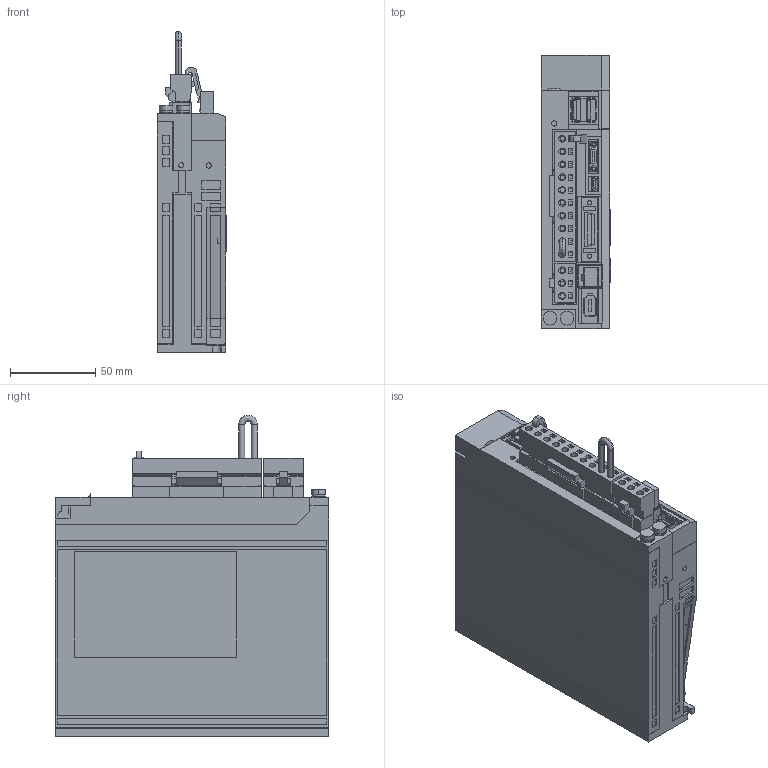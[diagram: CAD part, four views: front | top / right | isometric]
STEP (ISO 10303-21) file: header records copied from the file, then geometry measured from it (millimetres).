
FILE_DESCRIPTION (( 'STEP AP203' ), '1' );
FILE_NAME ('sgdv_1r6a1_a.STEP', '2008-06-17T08:20:23', ( 'T' ), ( 'T' ), 'SwSTEP 2.0', 'SolidWorks 2006052', '' );
FILE_SCHEMA (( 'CONFIG_CONTROL_DESIGN' ));
Length unit declared in the file: millimetre
Products named in the file (10): sgdv_1r6a1_a_pin; sgdv_1r6a1_a_cable; sgdv_1r6a1_a; sgdv_1r6a1_a_base; sgdv_1r6a1_a_connector; sgdv_1r6a1_a_connector_2; sgdv_1r6a1_a_connector_1; sgdv_1r6a1_a_cover; sgdv_1r6a1_a_cover2; sgdv_1r6a1_a_connector_3
Assembly tree (10 placements, depth 3):
  sgdv_1r6a1_a
    sgdv_1r6a1_a_base
    sgdv_1r6a1_a_connector
      sgdv_1r6a1_a_connector_2
      sgdv_1r6a1_a_pin
      sgdv_1r6a1_a_cable
    sgdv_1r6a1_a_connector_1
    sgdv_1r6a1_a_cover2  x2
    sgdv_1r6a1_a_cover
    sgdv_1r6a1_a_connector_3
Bounding box: 40.5 x 160 x 188 mm (x, y, z)
Volume: 830711.4 mm3; surface area: 134655.7 mm2
Topology: 9 solids, 9 shells, 1839 faces, 4869 edges, 3205 vertices
Faces by surface type: plane 1657, cylinder 175, cone 4, torus 2, sphere 1
Entity records: 56419 total; most frequent: CARTESIAN_POINT 9831, ORIENTED_EDGE 9630, DIRECTION 8850, EDGE_CURVE 4815, VECTOR 4434, LINE 4434, VERTEX_POINT 3169, AXIS2_PLACEMENT_3D 2208
